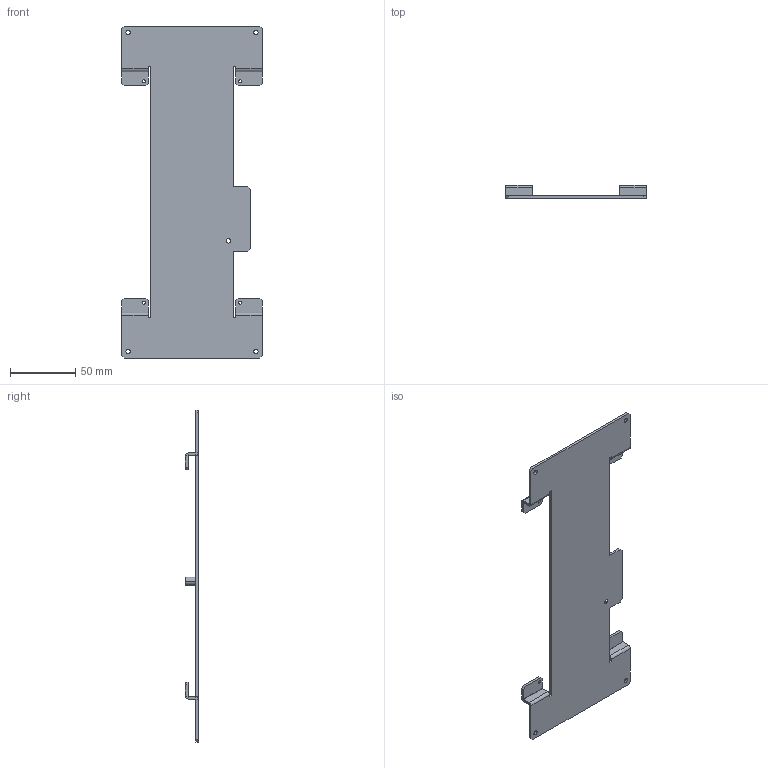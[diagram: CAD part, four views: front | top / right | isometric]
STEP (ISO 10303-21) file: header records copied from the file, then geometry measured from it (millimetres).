
FILE_DESCRIPTION (( 'STEP AP214' ), '1' );
FILE_NAME ('d-25_outline.STEP', '2023-11-07T04:52:25', ( '' ), ( '' ), 'SwSTEP 2.0', 'SolidWorks 2020', '' );
FILE_SCHEMA (( 'AUTOMOTIVE_DESIGN' ));
Length unit declared in the file: millimetre
Products named in the file (1): d-25_outline
Bounding box: 108 x 10 x 255 mm (x, y, z)
Volume: 42655.6 mm3; surface area: 44865.4 mm2
Topology: 1 solids, 1 shells, 253 faces, 663 edges, 417 vertices
Faces by surface type: plane 174, cylinder 38, bspline 33, cone 8
Entity records: 11016 total; most frequent: CARTESIAN_POINT 2143, ORIENTED_EDGE 1322, DIRECTION 1115, EDGE_CURVE 661, VECTOR 513, LINE 513, VERTEX_POINT 417, AXIS2_PLACEMENT_3D 301
